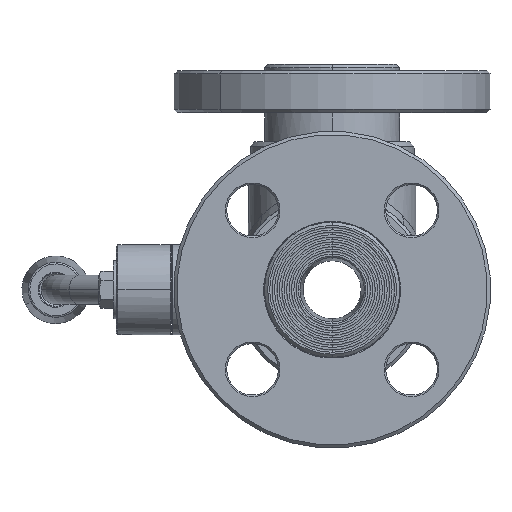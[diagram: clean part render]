
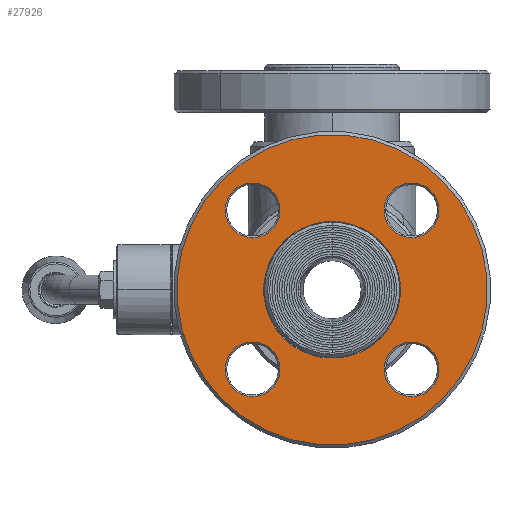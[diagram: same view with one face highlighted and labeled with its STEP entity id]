
A CAD part, left-side view. The second image highlights one B-rep face of the part: STEP entity #27926.
In plain terms, the highlighted planar face has unit normal (-1, 0, 0).
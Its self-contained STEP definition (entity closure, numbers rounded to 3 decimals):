
#3987=CARTESIAN_POINT('',(-68.,0.,0.));
#3988=DIRECTION('',(-1.,0.,0.));
#3989=DIRECTION('',(0.,-0.707,0.707));
#3990=AXIS2_PLACEMENT_3D('',#3987,#3988,#3989);
#3995=CARTESIAN_POINT('',(-68.,0.,0.));
#3996=DIRECTION('',(-1.,0.,0.));
#3997=DIRECTION('',(0.,0.707,-0.707));
#3998=AXIS2_PLACEMENT_3D('',#3995,#3996,#3997);
#4003=CARTESIAN_POINT('',(-68.,0.,0.));
#4004=DIRECTION('',(-1.,0.,0.));
#4005=DIRECTION('',(0.,0.707,-0.707));
#4006=AXIS2_PLACEMENT_3D('',#4003,#4004,#4005);
#4011=CARTESIAN_POINT('',(-68.,0.,0.));
#4012=DIRECTION('',(-1.,0.,0.));
#4013=DIRECTION('',(0.,-0.707,0.707));
#4014=AXIS2_PLACEMENT_3D('',#4011,#4012,#4013);
#4019=CARTESIAN_POINT('',(-68.,24.678,-24.678));
#4020=DIRECTION('',(1.,0.,0.));
#4021=DIRECTION('',(0.,0.707,-0.707));
#4022=AXIS2_PLACEMENT_3D('',#4019,#4020,#4021);
#4027=CARTESIAN_POINT('',(-68.,24.678,-24.678));
#4028=DIRECTION('',(1.,0.,0.));
#4029=DIRECTION('',(0.,-0.707,0.707));
#4030=AXIS2_PLACEMENT_3D('',#4027,#4028,#4029);
#4035=CARTESIAN_POINT('',(-68.,-24.678,-24.678));
#4036=DIRECTION('',(1.,0.,0.));
#4037=DIRECTION('',(0.,0.707,-0.707));
#4038=AXIS2_PLACEMENT_3D('',#4035,#4036,#4037);
#4043=CARTESIAN_POINT('',(-68.,-24.678,-24.678));
#4044=DIRECTION('',(1.,0.,0.));
#4045=DIRECTION('',(0.,-0.707,0.707));
#4046=AXIS2_PLACEMENT_3D('',#4043,#4044,#4045);
#4051=CARTESIAN_POINT('',(-68.,-24.678,24.678));
#4052=DIRECTION('',(1.,0.,0.));
#4053=DIRECTION('',(0.,0.707,-0.707));
#4054=AXIS2_PLACEMENT_3D('',#4051,#4052,#4053);
#4059=CARTESIAN_POINT('',(-68.,-24.678,24.678));
#4060=DIRECTION('',(1.,0.,0.));
#4061=DIRECTION('',(0.,-0.707,0.707));
#4062=AXIS2_PLACEMENT_3D('',#4059,#4060,#4061);
#4067=CARTESIAN_POINT('',(-68.,24.678,24.678));
#4068=DIRECTION('',(1.,0.,0.));
#4069=DIRECTION('',(0.,0.707,-0.707));
#4070=AXIS2_PLACEMENT_3D('',#4067,#4068,#4069);
#4075=CARTESIAN_POINT('',(-68.,24.678,24.678));
#4076=DIRECTION('',(1.,0.,0.));
#4077=DIRECTION('',(0.,-0.707,0.707));
#4078=AXIS2_PLACEMENT_3D('',#4075,#4076,#4077);
#23903=CARTESIAN_POINT('',(-68.,-34.083,34.083));
#23904=CARTESIAN_POINT('',(-68.,34.083,-34.083));
#23905=VERTEX_POINT('',#23903);
#23906=VERTEX_POINT('',#23904);
#23923=CARTESIAN_POINT('',(-68.,15.026,-15.026));
#23924=CARTESIAN_POINT('',(-68.,-15.026,15.026));
#23925=VERTEX_POINT('',#23923);
#23926=VERTEX_POINT('',#23924);
#23927=CARTESIAN_POINT('',(-68.,30.688,-30.688));
#23928=CARTESIAN_POINT('',(-68.,18.668,-18.668));
#23929=VERTEX_POINT('',#23927);
#23930=VERTEX_POINT('',#23928);
#23935=CARTESIAN_POINT('',(-68.,-18.668,-30.688));
#23936=CARTESIAN_POINT('',(-68.,-30.688,-18.668));
#23937=VERTEX_POINT('',#23935);
#23938=VERTEX_POINT('',#23936);
#23943=CARTESIAN_POINT('',(-68.,-18.668,18.668));
#23944=CARTESIAN_POINT('',(-68.,-30.688,30.688));
#23945=VERTEX_POINT('',#23943);
#23946=VERTEX_POINT('',#23944);
#23951=CARTESIAN_POINT('',(-68.,30.688,18.668));
#23952=CARTESIAN_POINT('',(-68.,18.668,30.688));
#23953=VERTEX_POINT('',#23951);
#23954=VERTEX_POINT('',#23952);
#27887=CARTESIAN_POINT('',(-68.,0.,0.));
#27888=DIRECTION('',(-1.,0.,0.));
#27889=DIRECTION('',(0.,-0.707,0.707));
#27890=AXIS2_PLACEMENT_3D('',#27887,#27888,#27889);
#27891=PLANE('',#27890);
#27893=ORIENTED_EDGE('',*,*,#27892,.F.);
#27895=ORIENTED_EDGE('',*,*,#27894,.F.);
#27896=EDGE_LOOP('',(#27893,#27895));
#27897=FACE_OUTER_BOUND('',#27896,.F.);
#27898=ORIENTED_EDGE('',*,*,#27880,.T.);
#27899=ORIENTED_EDGE('',*,*,#27839,.T.);
#27900=EDGE_LOOP('',(#27898,#27899));
#27901=FACE_BOUND('',#27900,.F.);
#27903=ORIENTED_EDGE('',*,*,#27902,.F.);
#27905=ORIENTED_EDGE('',*,*,#27904,.F.);
#27906=EDGE_LOOP('',(#27903,#27905));
#27907=FACE_BOUND('',#27906,.F.);
#27909=ORIENTED_EDGE('',*,*,#27908,.F.);
#27911=ORIENTED_EDGE('',*,*,#27910,.F.);
#27912=EDGE_LOOP('',(#27909,#27911));
#27913=FACE_BOUND('',#27912,.F.);
#27915=ORIENTED_EDGE('',*,*,#27914,.F.);
#27917=ORIENTED_EDGE('',*,*,#27916,.F.);
#27918=EDGE_LOOP('',(#27915,#27917));
#27919=FACE_BOUND('',#27918,.F.);
#27921=ORIENTED_EDGE('',*,*,#27920,.F.);
#27923=ORIENTED_EDGE('',*,*,#27922,.F.);
#27924=EDGE_LOOP('',(#27921,#27923));
#27925=FACE_BOUND('',#27924,.F.);
#27926=ADVANCED_FACE('',(#27897,#27901,#27907,#27913,#27919,#27925),#27891,.T.);
#3991=CIRCLE('',#3990,48.2);
#3999=CIRCLE('',#3998,48.2);
#4007=CIRCLE('',#4006,21.25);
#4015=CIRCLE('',#4014,21.25);
#4023=CIRCLE('',#4022,8.5);
#4031=CIRCLE('',#4030,8.5);
#4039=CIRCLE('',#4038,8.5);
#4047=CIRCLE('',#4046,8.5);
#4055=CIRCLE('',#4054,8.5);
#4063=CIRCLE('',#4062,8.5);
#4071=CIRCLE('',#4070,8.5);
#4079=CIRCLE('',#4078,8.5);
#27839=EDGE_CURVE('',#23926,#23925,#4015,.T.);
#27880=EDGE_CURVE('',#23925,#23926,#4007,.T.);
#27892=EDGE_CURVE('',#23905,#23906,#3991,.T.);
#27894=EDGE_CURVE('',#23906,#23905,#3999,.T.);
#27902=EDGE_CURVE('',#23929,#23930,#4023,.T.);
#27904=EDGE_CURVE('',#23930,#23929,#4031,.T.);
#27908=EDGE_CURVE('',#23937,#23938,#4039,.T.);
#27910=EDGE_CURVE('',#23938,#23937,#4047,.T.);
#27914=EDGE_CURVE('',#23945,#23946,#4055,.T.);
#27916=EDGE_CURVE('',#23946,#23945,#4063,.T.);
#27920=EDGE_CURVE('',#23953,#23954,#4071,.T.);
#27922=EDGE_CURVE('',#23954,#23953,#4079,.T.);
